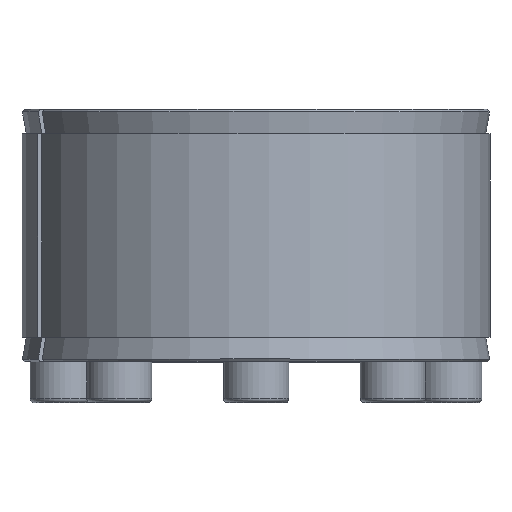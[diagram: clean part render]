
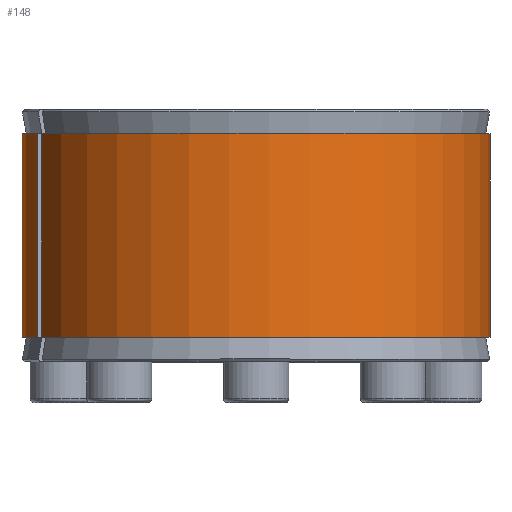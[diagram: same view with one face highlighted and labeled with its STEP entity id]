
A CAD part, top view. The second image highlights one B-rep face of the part: STEP entity #148.
In plain terms, the highlighted cylindrical face has radius 57.5 mm (diameter 115 mm), a partial arc.
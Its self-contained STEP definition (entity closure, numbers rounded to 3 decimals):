
#148 = ADVANCED_FACE( '', ( #336 ), #337, .T. );
#336 = FACE_OUTER_BOUND( '', #596, .T. );
#337 = CYLINDRICAL_SURFACE( '', #597, 57.5 );
#596 = EDGE_LOOP( '', ( #1016, #1017, #1018, #1019 ) );
#597 = AXIS2_PLACEMENT_3D( '', #1020, #1021, #1022 );
#1016 = ORIENTED_EDGE( '', *, *, #1486, .T. );
#1017 = ORIENTED_EDGE( '', *, *, #1532, .T. );
#1018 = ORIENTED_EDGE( '', *, *, #1471, .F. );
#1019 = ORIENTED_EDGE( '', *, *, #1533, .T. );
#1020 = CARTESIAN_POINT( '', ( 0., -60., 0. ) );
#1021 = DIRECTION( '', ( 0., 1., 0. ) );
#1022 = DIRECTION( '', ( 0., 0., -1. ) );
#1471 = EDGE_CURVE( '', #1804, #1805, #1806, .T. );
#1486 = EDGE_CURVE( '', #1832, #1830, #1833, .T. );
#1532 = EDGE_CURVE( '', #1830, #1805, #1896, .T. );
#1533 = EDGE_CURVE( '', #1804, #1832, #1897, .F. );
#1804 = VERTEX_POINT( '', #2306 );
#1805 = VERTEX_POINT( '', #2307 );
#1806 = CIRCLE( '', #2308, 57.5 );
#1830 = VERTEX_POINT( '', #2336 );
#1832 = VERTEX_POINT( '', #2339 );
#1833 = CIRCLE( '', #2340, 57.5 );
#1896 = LINE( '', #2439, #2440 );
#1897 = LINE( '', #2441, #2442 );
#2306 = CARTESIAN_POINT( '', ( -53.589, 6., 20.844 ) );
#2307 = CARTESIAN_POINT( '', ( -52.632, 6., 23.154 ) );
#2308 = AXIS2_PLACEMENT_3D( '', #2876, #2877, #2878 );
#2336 = CARTESIAN_POINT( '', ( -52.632, 56., 23.154 ) );
#2339 = CARTESIAN_POINT( '', ( -53.589, 56., 20.844 ) );
#2340 = AXIS2_PLACEMENT_3D( '', #2902, #2903, #2904 );
#2439 = CARTESIAN_POINT( '', ( -52.632, -60., 23.154 ) );
#2440 = VECTOR( '', #2976, 1000. );
#2441 = CARTESIAN_POINT( '', ( -53.589, -60., 20.844 ) );
#2442 = VECTOR( '', #2977, 1000. );
#2876 = CARTESIAN_POINT( '', ( 0., 6., 0. ) );
#2877 = DIRECTION( '', ( 0., -1., 0. ) );
#2878 = DIRECTION( '', ( 0., 0., -1. ) );
#2902 = CARTESIAN_POINT( '', ( 0., 56., 0. ) );
#2903 = DIRECTION( '', ( 0., -1., 0. ) );
#2904 = DIRECTION( '', ( 0., 0., -1. ) );
#2976 = DIRECTION( '', ( 0., -1., 0. ) );
#2977 = DIRECTION( '', ( 0., -1., 0. ) );
